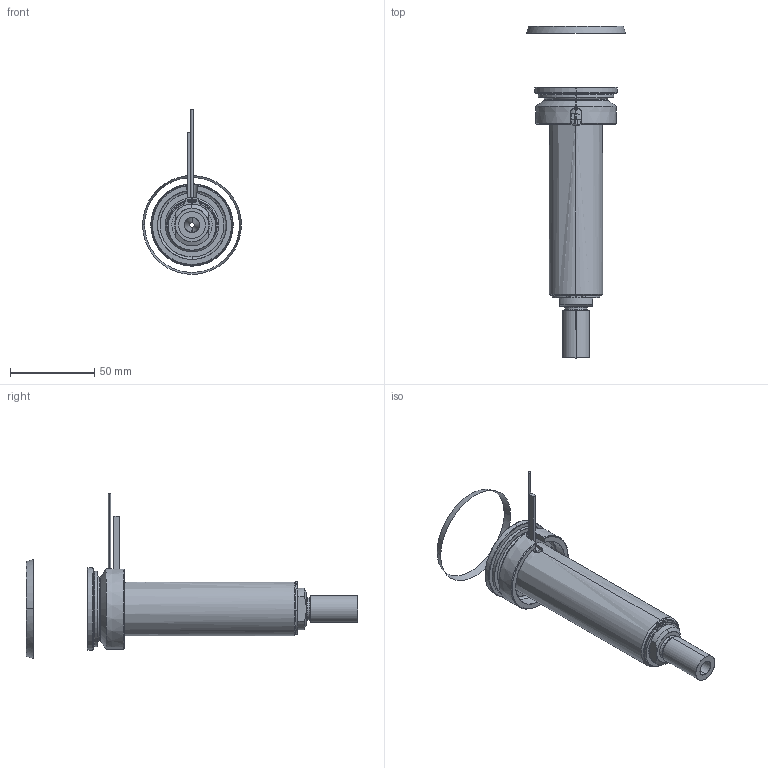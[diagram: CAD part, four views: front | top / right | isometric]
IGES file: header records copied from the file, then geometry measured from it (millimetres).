
Start section: SolidWorks IGES file using analytic representation for surfaces
Global section: file name: C:\Documents and Settings\ws-20\Desktop\TEMPORANEA\UGBE5003-S-A-P-5 [Ød-3.0 P-25 ØC-12].IGS; native system: SolidWorks 2012; preprocessor: SolidWorks 2012; author: ws-20; date: 120306.145721; units: millimetre
Bounding box: 58.79 x 197.44 x 98.01 mm (x, y, z)
Surface area: 53384.8 mm2 (no closed solid volume)
Topology: 0 solids, 0 shells, 114 faces, 2134 edges, 2134 vertices
Faces by surface type: revolution 70, bspline 44
